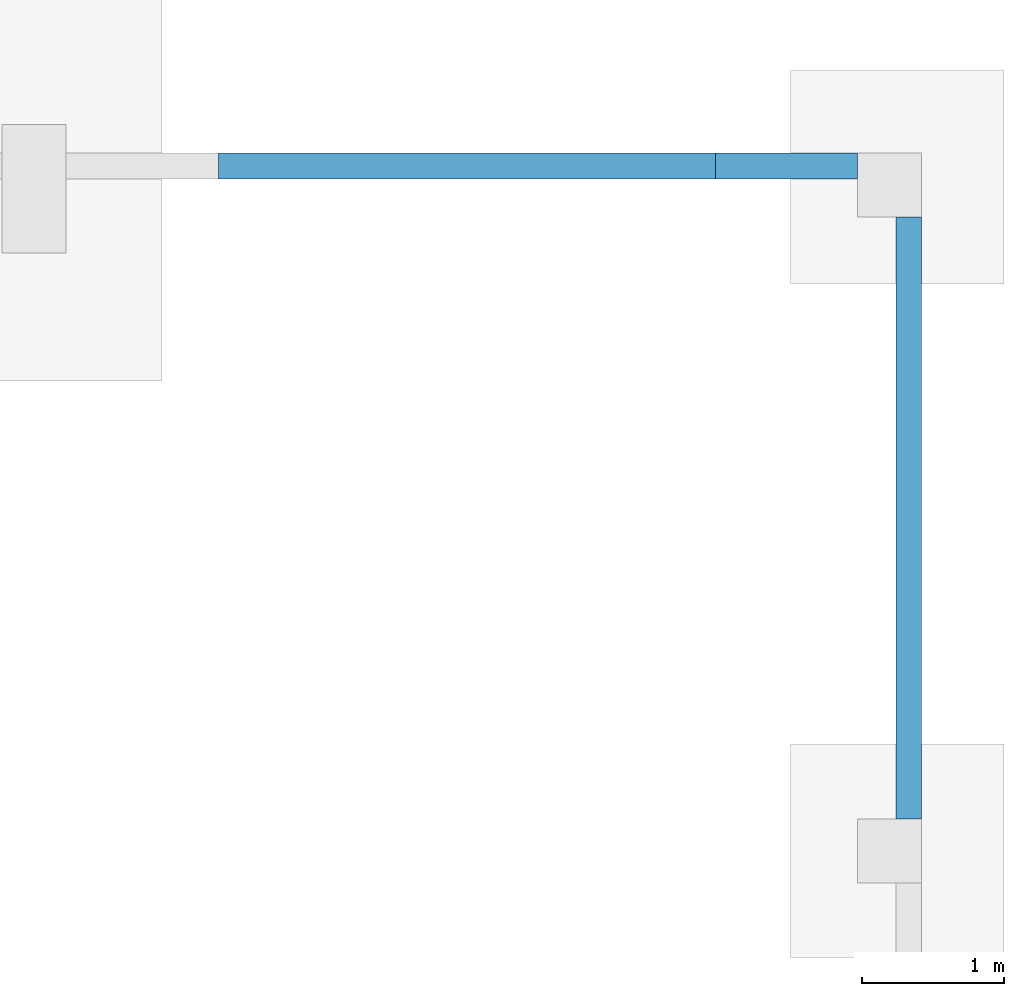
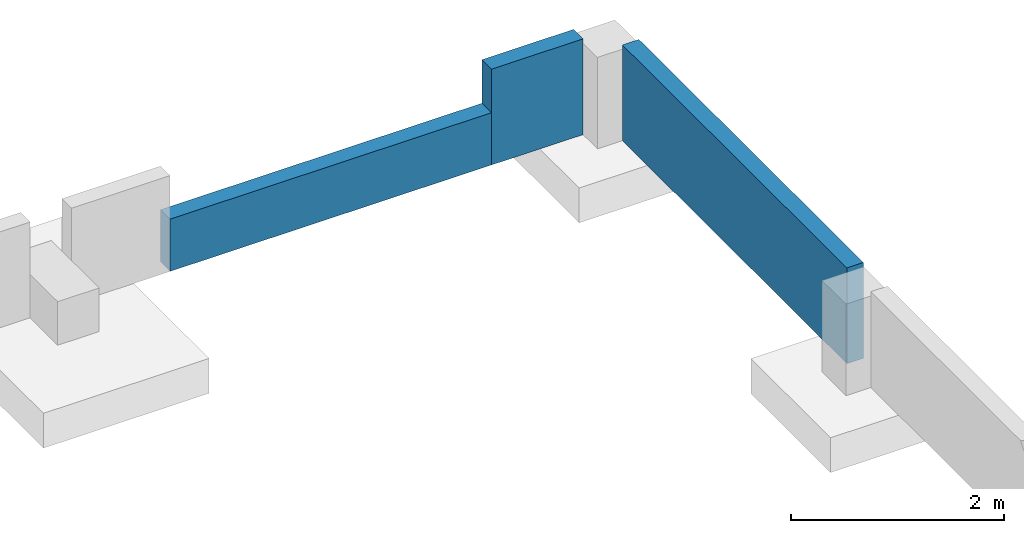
# One storey, part 2 of 2: 3 walls.
"""IFC2X3 building model written with IfcOpenShell, lengths in metres."""

from ifc_helpers import new_model, entity, si_unit, converted_unit, frame, frame_2d, origin, origin_with_axes, place, context, subcontext, project, spatial, rectangle, extrude, material, layer, layer_set, layer_usage, element, save


model = new_model("IFC2X3")

# Units and contexts
model_context = context("Model", 3, precision=1e-05, world=origin())
body_context = subcontext(model_context, "Body", "Model", "MODEL_VIEW")
ifc_project = project(units=[si_unit("LENGTHUNIT", "METRE"), si_unit("AREAUNIT", "SQUARE_METRE"), si_unit("VOLUMEUNIT", "CUBIC_METRE"), si_unit("MASSUNIT", "GRAM", prefix="KILO"), converted_unit("PLANEANGLEUNIT", "DEGREE", entity("IfcPlaneAngleMeasure", 0.0174532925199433), si_unit("PLANEANGLEUNIT", "RADIAN"), dimensions=[0, 0, 0, 0, 0, 0, 0])], contexts=[model_context])

# Building, storey
building_placement = place(None, origin())
building = spatial("IfcBuilding", under=ifc_project, at=building_placement, Name="Szalunki", CompositionType="ELEMENT")
storey_placement = place(building_placement, origin())
storey = spatial("IfcBuildingStorey", under=building, at=storey_placement, Name="Fundamenty", CompositionType="ELEMENT", Elevation=0.0)

# Walls
ifc_material_1 = material()
ifc_layer_1 = layer(ifc_material_1, 0.18)
ifc_layer_set_1 = layer_set([ifc_layer_1])
ifc_layer_usage_1 = layer_usage(ifc_layer_set_1, "AXIS2", "POSITIVE", 0.0)
wall_1_placement = place(storey_placement, frame((36.6279999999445, 9.97499999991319, -0.8), z_axis=(0.0, 0.0, 1.0), x_axis=(-1.54990813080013e-14, 1.0, 0.0)))
element("IfcWallStandardCase", 1, at=wall_1_placement, inside=storey, material=ifc_layer_usage_1, context=body_context, shape_type="SweptSolid", body=[
    extrude(rectangle(XDim=4.22500000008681, YDim=0.18, at=frame_2d((2.11250000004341, 0.09), x_axis=(1.0, 0.0))), origin_with_axes(), (0.0, 0.0, 1.0), 1.1),
])
ifc_material_2 = material()
ifc_layer_2 = layer(ifc_material_2, 0.18)
ifc_layer_set_2 = layer_set([ifc_layer_2])
ifc_layer_usage_2 = layer_usage(ifc_layer_set_2, "AXIS2", "POSITIVE", 0.0)
wall_2_placement = place(storey_placement, frame((36.1779999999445, 14.65, -0.8), z_axis=(0.0, 0.0, 1.0), x_axis=(-1.0, 0.0, 0.0)))
element("IfcWallStandardCase", 2, at=wall_2_placement, inside=storey, material=ifc_layer_usage_2, context=body_context, shape_type="SweptSolid", body=[
    extrude(rectangle(XDim=0.996498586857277, YDim=0.18, at=frame_2d((0.498249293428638, 0.09), x_axis=(1.0, 0.0))), origin_with_axes(), (0.0, 0.0, 1.0), 1.1),
])
ifc_material_3 = material()
ifc_layer_3 = layer(ifc_material_3, 0.18)
ifc_layer_set_3 = layer_set([ifc_layer_3])
ifc_layer_usage_3 = layer_usage(ifc_layer_set_3, "AXIS2", "POSITIVE", 0.0)
wall_3_placement = place(storey_placement, frame((35.1815014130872, 14.65, -0.8), z_axis=(0.0, 0.0, 1.0), x_axis=(-1.0, 0.0, 0.0)))
element("IfcWallStandardCase", 3, at=wall_3_placement, inside=storey, material=ifc_layer_usage_3, context=body_context, shape_type="SweptSolid", body=[
    extrude(rectangle(XDim=3.49, YDim=0.18, at=frame_2d((1.745, 0.09), x_axis=(1.0, 0.0))), origin_with_axes(), (0.0, 0.0, 1.0), 0.6),
])

save(model, "model.ifc")
